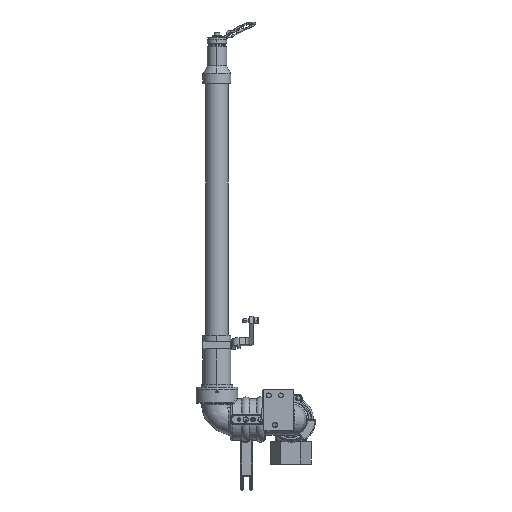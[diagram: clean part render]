
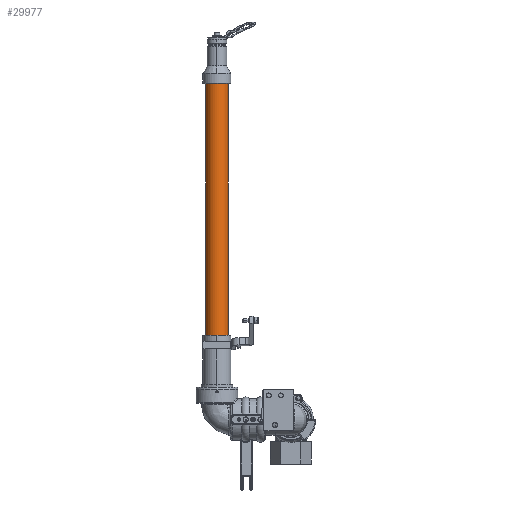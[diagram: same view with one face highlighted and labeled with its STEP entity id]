
A CAD part, front view. The second image highlights one B-rep face of the part: STEP entity #29977.
In plain terms, the highlighted cylindrical face has radius 19.05 mm (diameter 38.1 mm), a partial arc.
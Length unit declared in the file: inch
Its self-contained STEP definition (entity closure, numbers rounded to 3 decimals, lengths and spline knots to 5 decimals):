
#29849=DIRECTION('',(0.,0.,1.));
#29850=VECTOR('',#29849,17.7495);
#29851=CARTESIAN_POINT('',(-4.2295,0.,5.287));
#29852=LINE('',#29851,#29850);
#29858=CARTESIAN_POINT('',(-4.9795,0.,5.287));
#29859=DIRECTION('',(0.,0.,-1.));
#29860=DIRECTION('',(1.,0.,0.));
#29861=AXIS2_PLACEMENT_3D('',#29858,#29859,#29860);
#29863=DIRECTION('',(0.,0.,1.));
#29864=VECTOR('',#29863,17.7495);
#29865=CARTESIAN_POINT('',(-5.7295,0.,5.287));
#29866=LINE('',#29865,#29864);
#29867=CARTESIAN_POINT('',(-4.9795,0.,23.0365));
#29868=DIRECTION('',(0.,0.,1.));
#29869=DIRECTION('',(-1.,0.,0.));
#29870=AXIS2_PLACEMENT_3D('',#29867,#29868,#29869);
#29920=CARTESIAN_POINT('',(-4.2295,0.,5.287));
#29921=CARTESIAN_POINT('',(-5.7295,0.,5.287));
#29922=VERTEX_POINT('',#29920);
#29923=VERTEX_POINT('',#29921);
#29928=CARTESIAN_POINT('',(-5.7295,0.,23.0365));
#29929=CARTESIAN_POINT('',(-4.2295,0.,23.0365));
#29930=VERTEX_POINT('',#29928);
#29931=VERTEX_POINT('',#29929);
#29964=CARTESIAN_POINT('',(-4.9795,0.,5.287));
#29965=DIRECTION('',(0.,0.,1.));
#29966=DIRECTION('',(1.,0.,0.));
#29967=AXIS2_PLACEMENT_3D('',#29964,#29965,#29966);
#29968=CYLINDRICAL_SURFACE('',#29967,0.75);
#29970=ORIENTED_EDGE('',*,*,#29969,.T.);
#29971=ORIENTED_EDGE('',*,*,#29953,.T.);
#29973=ORIENTED_EDGE('',*,*,#29972,.T.);
#29974=ORIENTED_EDGE('',*,*,#29957,.F.);
#29975=EDGE_LOOP('',(#29970,#29971,#29973,#29974));
#29976=FACE_OUTER_BOUND('',#29975,.F.);
#29862=CIRCLE('',#29861,0.75);
#29871=CIRCLE('',#29870,0.75);
#29953=EDGE_CURVE('',#29923,#29930,#29866,.T.);
#29957=EDGE_CURVE('',#29922,#29931,#29852,.T.);
#29969=EDGE_CURVE('',#29922,#29923,#29862,.T.);
#29972=EDGE_CURVE('',#29930,#29931,#29871,.T.);
#29977=ADVANCED_FACE('',(#29976),#29968,.T.);
